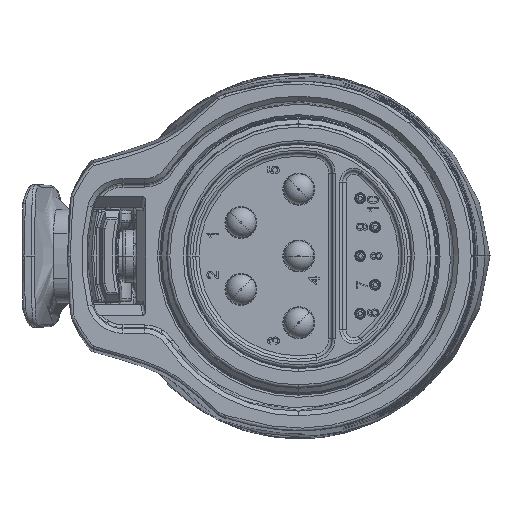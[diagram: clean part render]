
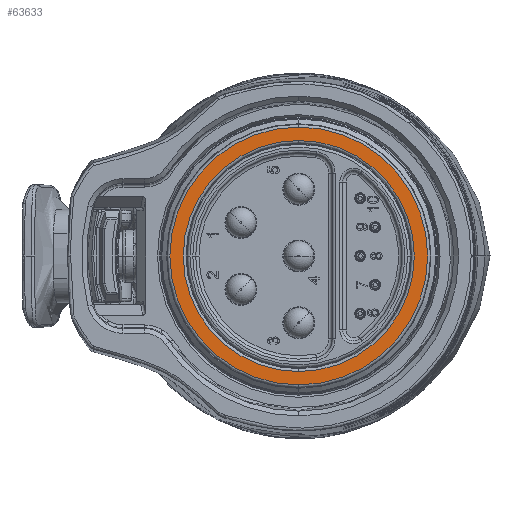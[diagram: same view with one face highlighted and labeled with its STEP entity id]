
A CAD part, left-side view. The second image highlights one B-rep face of the part: STEP entity #63633.
In plain terms, the highlighted planar face has unit normal (-1, 0, 0).
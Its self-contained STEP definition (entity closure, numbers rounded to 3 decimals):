
#10898 = CARTESIAN_POINT ( 'NONE',  ( 0., 0., -13.502 ) ) ;
#10930 = VERTEX_POINT ( 'NONE', #54225 ) ;
#11718 = VERTEX_POINT ( 'NONE', #23112 ) ;
#13669 = AXIS2_PLACEMENT_3D ( 'NONE', #39155, #127870, #16300 ) ;
#13794 = CARTESIAN_POINT ( 'NONE',  ( 0., 0., 0. ) ) ;
#16300 = DIRECTION ( 'NONE',  ( 0., 0., -1. ) ) ;
#19847 = CARTESIAN_POINT ( 'NONE',  ( 0., 0., 12.101 ) ) ;
#22586 = CARTESIAN_POINT ( 'NONE',  ( 0., 0., 0. ) ) ;
#23112 = CARTESIAN_POINT ( 'NONE',  ( 0., 0., -12.101 ) ) ;
#24025 = CIRCLE ( 'NONE', #33505, 12.101 ) ;
#26603 = PLANE ( 'NONE',  #13669 ) ;
#33505 = AXIS2_PLACEMENT_3D ( 'NONE', #22586, #92683, #81609 ) ;
#39155 = CARTESIAN_POINT ( 'NONE',  ( 0., 11.8, 0. ) ) ;
#42348 = ORIENTED_EDGE ( 'NONE', *, *, #108730, .T. ) ;
#47959 = CIRCLE ( 'NONE', #71602, 12.101 ) ;
#50247 = FACE_BOUND ( 'NONE', #103802, .T. ) ;
#54225 = CARTESIAN_POINT ( 'NONE',  ( 0., 0., 13.502 ) ) ;
#63633 = ADVANCED_FACE ( 'NONE', ( #50247, #106406 ), #26603, .F. ) ;
#66730 = ORIENTED_EDGE ( 'NONE', *, *, #69711, .T. ) ;
#69711 = EDGE_CURVE ( 'NONE', #10930, #92711, #70172, .T. ) ;
#70172 = CIRCLE ( 'NONE', #124518, 13.502 ) ;
#71602 = AXIS2_PLACEMENT_3D ( 'NONE', #111146, #89691, #102923 ) ;
#81609 = DIRECTION ( 'NONE',  ( 0., 0., -1. ) ) ;
#87035 = ORIENTED_EDGE ( 'NONE', *, *, #101597, .T. ) ;
#89691 = DIRECTION ( 'NONE',  ( 1., 0., 0. ) ) ;
#92683 = DIRECTION ( 'NONE',  ( 1., 0., 0. ) ) ;
#92711 = VERTEX_POINT ( 'NONE', #10898 ) ;
#95682 = DIRECTION ( 'NONE',  ( -1., 0., 0. ) ) ;
#96376 = DIRECTION ( 'NONE',  ( 0., 0., -1. ) ) ;
#101291 = ORIENTED_EDGE ( 'NONE', *, *, #106245, .T. ) ;
#101597 = EDGE_CURVE ( 'NONE', #123274, #11718, #24025, .T. ) ;
#102923 = DIRECTION ( 'NONE',  ( 0., 0., -1. ) ) ;
#103802 = EDGE_LOOP ( 'NONE', ( #101291, #87035 ) ) ;
#106245 = EDGE_CURVE ( 'NONE', #11718, #123274, #47959, .T. ) ;
#106406 = FACE_OUTER_BOUND ( 'NONE', #122235, .T. ) ;
#106801 = DIRECTION ( 'NONE',  ( 0., 0., -1. ) ) ;
#107046 = AXIS2_PLACEMENT_3D ( 'NONE', #13794, #95682, #106801 ) ;
#107493 = CARTESIAN_POINT ( 'NONE',  ( 0., 0., 0. ) ) ;
#108730 = EDGE_CURVE ( 'NONE', #92711, #10930, #109460, .T. ) ;
#109460 = CIRCLE ( 'NONE', #107046, 13.502 ) ;
#111146 = CARTESIAN_POINT ( 'NONE',  ( 0., 0., 0. ) ) ;
#122235 = EDGE_LOOP ( 'NONE', ( #42348, #66730 ) ) ;
#123274 = VERTEX_POINT ( 'NONE', #19847 ) ;
#124518 = AXIS2_PLACEMENT_3D ( 'NONE', #107493, #139291, #96376 ) ;
#127870 = DIRECTION ( 'NONE',  ( 1., 0., 0. ) ) ;
#139291 = DIRECTION ( 'NONE',  ( -1., 0., 0. ) ) ;
